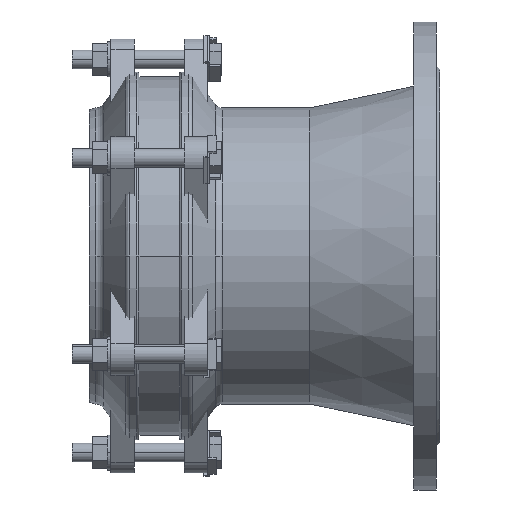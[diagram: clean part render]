
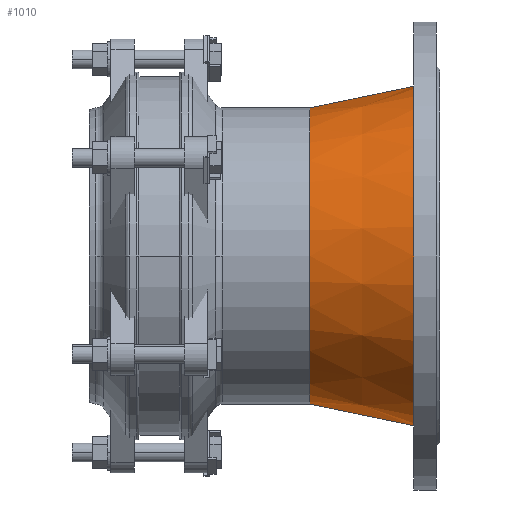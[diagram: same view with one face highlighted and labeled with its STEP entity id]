
A CAD part, front view. The second image highlights one B-rep face of the part: STEP entity #1010.
In plain terms, the highlighted conical face has half-angle 11.743 degrees and reference radius 135.75 mm.
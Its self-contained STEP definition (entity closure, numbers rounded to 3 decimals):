
#1010=ADVANCED_FACE('',(#2161),#2162,.T.);
#2161=FACE_OUTER_BOUND('',#3874,.T.);
#2162=CONICAL_SURFACE('',#3875,135.75,0.205);
#3874=EDGE_LOOP('',(#5277,#5278,#5279,#5280));
#3875=AXIS2_PLACEMENT_3D('',#5281,#5282,#5283);
#5277=ORIENTED_EDGE('',*,*,#8913,.T.);
#5278=ORIENTED_EDGE('',*,*,#8914,.F.);
#5279=ORIENTED_EDGE('',*,*,#8915,.T.);
#5280=ORIENTED_EDGE('',*,*,#8916,.F.);
#5281=CARTESIAN_POINT('',(-845.499,-669.631,456.582));
#5282=DIRECTION('',(1.0,-0.0,0.));
#5283=DIRECTION('',(0.,0.0,-1.0));
#8913=EDGE_CURVE('',#10360,#10361,#10362,.T.);
#8914=EDGE_CURVE('',#10363,#10361,#10364,.T.);
#8915=EDGE_CURVE('',#10363,#10365,#10366,.T.);
#8916=EDGE_CURVE('',#10360,#10365,#10367,.T.);
#10360=VERTEX_POINT('',#12431);
#10361=VERTEX_POINT('',#12432);
#10362=LINE('',#12433,#12434);
#10363=VERTEX_POINT('',#12435);
#10364=CIRCLE('',#12436,145.0);
#10365=VERTEX_POINT('',#12437);
#10366=LINE('',#12438,#12439);
#10367=CIRCLE('',#12440,126.5);
#12431=CARTESIAN_POINT('',(-889.999,-669.631,330.082));
#12432=CARTESIAN_POINT('',(-800.999,-669.631,311.582));
#12433=CARTESIAN_POINT('',(-845.499,-669.631,320.832));
#12434=VECTOR('',#15103,1.0);
#12435=CARTESIAN_POINT('',(-800.999,-669.631,601.582));
#12436=AXIS2_PLACEMENT_3D('',#15104,#15105,#15106);
#12437=CARTESIAN_POINT('',(-889.999,-669.631,583.082));
#12438=CARTESIAN_POINT('',(-845.499,-669.631,592.332));
#12439=VECTOR('',#15107,1.0);
#12440=AXIS2_PLACEMENT_3D('',#15108,#15109,#15110);
#15103=DIRECTION('',(0.979,0.0,-0.204));
#15104=CARTESIAN_POINT('',(-800.999,-669.631,456.582));
#15105=DIRECTION('',(1.0,0.0,0.));
#15106=DIRECTION('',(0.,0.0,-1.0));
#15107=DIRECTION('',(-0.979,-0.0,-0.204));
#15108=CARTESIAN_POINT('',(-889.999,-669.631,456.582));
#15109=DIRECTION('',(-1.0,0.0,0.));
#15110=DIRECTION('',(0.,0.0,-1.0));
